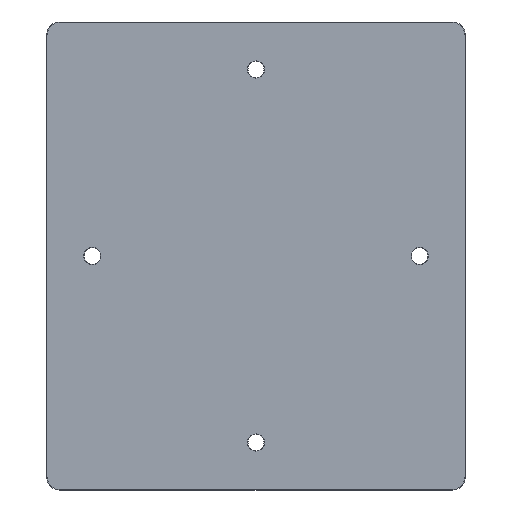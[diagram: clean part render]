
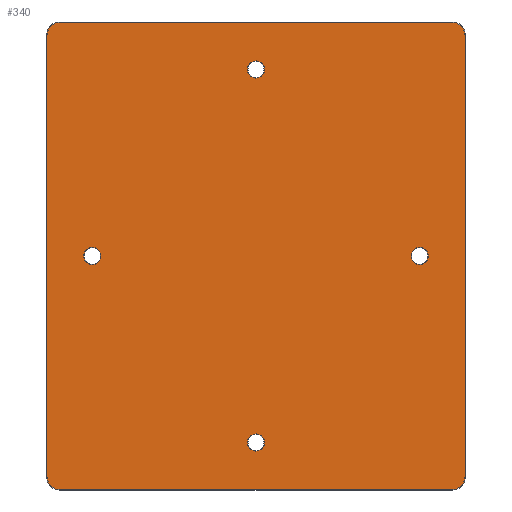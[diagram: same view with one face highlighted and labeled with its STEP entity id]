
A CAD part, front view. The second image highlights one B-rep face of the part: STEP entity #340.
In plain terms, the highlighted planar face has unit normal (0, -1, 0).
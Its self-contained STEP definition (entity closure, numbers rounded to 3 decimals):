
#1=CARTESIAN_POINT('',(50.,-1.75,0.));
#2=DIRECTION('',(0.,-1.,0.));
#3=DIRECTION('',(-1.,0.,0.));
#4=AXIS2_PLACEMENT_3D('',#1,#2,#3);
#6=CARTESIAN_POINT('',(50.,-1.75,0.));
#7=DIRECTION('',(0.,-1.,0.));
#8=DIRECTION('',(1.,0.,0.));
#9=AXIS2_PLACEMENT_3D('',#6,#7,#8);
#11=CARTESIAN_POINT('',(-50.,-1.75,0.));
#12=DIRECTION('',(0.,-1.,0.));
#13=DIRECTION('',(-1.,0.,0.));
#14=AXIS2_PLACEMENT_3D('',#11,#12,#13);
#16=CARTESIAN_POINT('',(-50.,-1.75,0.));
#17=DIRECTION('',(0.,-1.,0.));
#18=DIRECTION('',(1.,0.,0.));
#19=AXIS2_PLACEMENT_3D('',#16,#17,#18);
#21=CARTESIAN_POINT('',(0.,-1.75,-57.));
#22=DIRECTION('',(0.,-1.,0.));
#23=DIRECTION('',(-1.,0.,0.));
#24=AXIS2_PLACEMENT_3D('',#21,#22,#23);
#26=CARTESIAN_POINT('',(0.,-1.75,-57.));
#27=DIRECTION('',(0.,-1.,0.));
#28=DIRECTION('',(1.,0.,0.));
#29=AXIS2_PLACEMENT_3D('',#26,#27,#28);
#31=CARTESIAN_POINT('',(0.,-1.75,57.));
#32=DIRECTION('',(0.,-1.,0.));
#33=DIRECTION('',(-1.,0.,0.));
#34=AXIS2_PLACEMENT_3D('',#31,#32,#33);
#36=CARTESIAN_POINT('',(0.,-1.75,57.));
#37=DIRECTION('',(0.,-1.,0.));
#38=DIRECTION('',(1.,0.,0.));
#39=AXIS2_PLACEMENT_3D('',#36,#37,#38);
#41=CARTESIAN_POINT('',(-63.878,-1.75,-67.38));
#42=CARTESIAN_POINT('',(-63.878,-1.75,-68.046));
#43=CARTESIAN_POINT('',(-63.589,-1.75,-69.09));
#44=CARTESIAN_POINT('',(-62.766,-1.75,-70.266));
#45=CARTESIAN_POINT('',(-61.59,-1.75,-71.089));
#46=CARTESIAN_POINT('',(-60.546,-1.75,-71.378));
#47=CARTESIAN_POINT('',(-59.88,-1.75,-71.378));
#49=CARTESIAN_POINT('',(-59.88,-1.75,71.378));
#50=CARTESIAN_POINT('',(-60.546,-1.75,71.378));
#51=CARTESIAN_POINT('',(-61.59,-1.75,71.089));
#52=CARTESIAN_POINT('',(-62.766,-1.75,70.266));
#53=CARTESIAN_POINT('',(-63.589,-1.75,69.09));
#54=CARTESIAN_POINT('',(-63.878,-1.75,68.046));
#55=CARTESIAN_POINT('',(-63.878,-1.75,67.38));
#57=CARTESIAN_POINT('',(63.878,-1.75,67.38));
#58=CARTESIAN_POINT('',(63.878,-1.75,68.046));
#59=CARTESIAN_POINT('',(63.589,-1.75,69.09));
#60=CARTESIAN_POINT('',(62.766,-1.75,70.266));
#61=CARTESIAN_POINT('',(61.59,-1.75,71.089));
#62=CARTESIAN_POINT('',(60.546,-1.75,71.378));
#63=CARTESIAN_POINT('',(59.88,-1.75,71.378));
#65=CARTESIAN_POINT('',(59.88,-1.75,-71.378));
#66=CARTESIAN_POINT('',(60.546,-1.75,-71.378));
#67=CARTESIAN_POINT('',(61.59,-1.75,-71.089));
#68=CARTESIAN_POINT('',(62.766,-1.75,-70.266));
#69=CARTESIAN_POINT('',(63.589,-1.75,-69.09));
#70=CARTESIAN_POINT('',(63.878,-1.75,-68.046));
#71=CARTESIAN_POINT('',(63.878,-1.75,-67.38));
#201=DIRECTION('',(0.,0.,1.));
#202=VECTOR('',#201,134.76);
#203=CARTESIAN_POINT('',(-63.878,-1.75,-67.38));
#204=LINE('528',#203,#202);
#209=DIRECTION('',(1.,0.,0.));
#210=VECTOR('',#209,119.76);
#211=CARTESIAN_POINT('',(-59.88,-1.75,71.378));
#212=LINE('531',#211,#210);
#221=DIRECTION('',(0.,0.,-1.));
#222=VECTOR('',#221,134.76);
#223=CARTESIAN_POINT('',(63.878,-1.75,67.38));
#224=LINE('530',#223,#222);
#233=DIRECTION('',(-1.,0.,0.));
#234=VECTOR('',#233,119.76);
#235=CARTESIAN_POINT('',(59.88,-1.75,-71.378));
#236=LINE('529',#235,#234);
#241=CARTESIAN_POINT('',(47.378,-1.75,0.));
#242=CARTESIAN_POINT('',(52.622,-1.75,0.));
#243=VERTEX_POINT('',#241);
#244=VERTEX_POINT('',#242);
#245=CARTESIAN_POINT('',(-52.622,-1.75,0.));
#246=CARTESIAN_POINT('',(-47.378,-1.75,0.));
#247=VERTEX_POINT('',#245);
#248=VERTEX_POINT('',#246);
#249=CARTESIAN_POINT('',(-2.622,-1.75,-57.));
#250=CARTESIAN_POINT('',(2.622,-1.75,-57.));
#251=VERTEX_POINT('',#249);
#252=VERTEX_POINT('',#250);
#253=CARTESIAN_POINT('',(-2.622,-1.75,57.));
#254=CARTESIAN_POINT('',(2.622,-1.75,57.));
#255=VERTEX_POINT('',#253);
#256=VERTEX_POINT('',#254);
#275=CARTESIAN_POINT('',(-63.878,-1.75,-67.38));
#276=VERTEX_POINT('',#275);
#277=VERTEX_POINT('',#47);
#280=CARTESIAN_POINT('',(59.88,-1.75,-71.378));
#281=VERTEX_POINT('',#280);
#282=VERTEX_POINT('',#71);
#285=CARTESIAN_POINT('',(63.878,-1.75,67.38));
#286=VERTEX_POINT('',#285);
#287=VERTEX_POINT('',#63);
#288=VERTEX_POINT('',#49);
#289=VERTEX_POINT('',#55);
#293=CARTESIAN_POINT('',(0.,-1.75,0.));
#294=DIRECTION('',(0.,1.,0.));
#295=DIRECTION('',(1.,0.,0.));
#296=AXIS2_PLACEMENT_3D('',#293,#294,#295);
#297=PLANE('177',#296);
#299=ORIENTED_EDGE('514',*,*,#298,.F.);
#301=ORIENTED_EDGE('528',*,*,#300,.T.);
#303=ORIENTED_EDGE('524',*,*,#302,.F.);
#305=ORIENTED_EDGE('531',*,*,#304,.T.);
#307=ORIENTED_EDGE('522',*,*,#306,.F.);
#309=ORIENTED_EDGE('530',*,*,#308,.T.);
#311=ORIENTED_EDGE('518',*,*,#310,.F.);
#313=ORIENTED_EDGE('529',*,*,#312,.T.);
#314=EDGE_LOOP('177',(#299,#301,#303,#305,#307,#309,#311,#313));
#315=FACE_OUTER_BOUND('177',#314,.F.);
#317=ORIENTED_EDGE('385',*,*,#316,.T.);
#319=ORIENTED_EDGE('386',*,*,#318,.T.);
#320=EDGE_LOOP('177',(#317,#319));
#321=FACE_BOUND('177',#320,.F.);
#323=ORIENTED_EDGE('387',*,*,#322,.T.);
#325=ORIENTED_EDGE('388',*,*,#324,.T.);
#326=EDGE_LOOP('177',(#323,#325));
#327=FACE_BOUND('177',#326,.F.);
#329=ORIENTED_EDGE('389',*,*,#328,.T.);
#331=ORIENTED_EDGE('390',*,*,#330,.T.);
#332=EDGE_LOOP('177',(#329,#331));
#333=FACE_BOUND('177',#332,.F.);
#335=ORIENTED_EDGE('383',*,*,#334,.T.);
#337=ORIENTED_EDGE('384',*,*,#336,.T.);
#338=EDGE_LOOP('177',(#335,#337));
#339=FACE_BOUND('177',#338,.F.);
#340=ADVANCED_FACE('177',(#315,#321,#327,#333,#339),#297,.F.);
#5=CIRCLE('383',#4,2.622);
#10=CIRCLE('384',#9,2.622);
#15=CIRCLE('385',#14,2.622);
#20=CIRCLE('386',#19,2.622);
#25=CIRCLE('387',#24,2.622);
#30=CIRCLE('388',#29,2.622);
#35=CIRCLE('389',#34,2.622);
#40=CIRCLE('390',#39,2.622);
#48=B_SPLINE_CURVE_WITH_KNOTS('514',3,(#41,#42,#43,#44,#45,#46,#47),
.UNSPECIFIED.,.F.,.F.,(4,1,1,1,4),(0.,0.25,0.5,0.75,1.),
.UNSPECIFIED.);
#56=B_SPLINE_CURVE_WITH_KNOTS('524',3,(#49,#50,#51,#52,#53,#54,#55),
.UNSPECIFIED.,.F.,.F.,(4,1,1,1,4),(0.,0.25,0.5,0.75,1.),
.UNSPECIFIED.);
#64=B_SPLINE_CURVE_WITH_KNOTS('522',3,(#57,#58,#59,#60,#61,#62,#63),
.UNSPECIFIED.,.F.,.F.,(4,1,1,1,4),(0.,0.25,0.5,0.75,1.),
.UNSPECIFIED.);
#72=B_SPLINE_CURVE_WITH_KNOTS('518',3,(#65,#66,#67,#68,#69,#70,#71),
.UNSPECIFIED.,.F.,.F.,(4,1,1,1,4),(0.,0.25,0.5,0.75,1.),
.UNSPECIFIED.);
#298=EDGE_CURVE('514',#276,#277,#48,.T.);
#300=EDGE_CURVE('528',#276,#289,#204,.T.);
#302=EDGE_CURVE('524',#288,#289,#56,.T.);
#304=EDGE_CURVE('531',#288,#287,#212,.T.);
#306=EDGE_CURVE('522',#286,#287,#64,.T.);
#308=EDGE_CURVE('530',#286,#282,#224,.T.);
#310=EDGE_CURVE('518',#281,#282,#72,.T.);
#312=EDGE_CURVE('529',#281,#277,#236,.T.);
#316=EDGE_CURVE('385',#247,#248,#15,.T.);
#318=EDGE_CURVE('386',#248,#247,#20,.T.);
#322=EDGE_CURVE('387',#251,#252,#25,.T.);
#324=EDGE_CURVE('388',#252,#251,#30,.T.);
#328=EDGE_CURVE('389',#255,#256,#35,.T.);
#330=EDGE_CURVE('390',#256,#255,#40,.T.);
#334=EDGE_CURVE('383',#243,#244,#5,.T.);
#336=EDGE_CURVE('384',#244,#243,#10,.T.);
